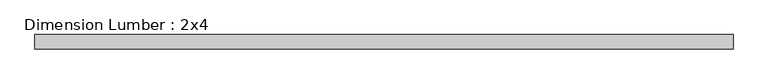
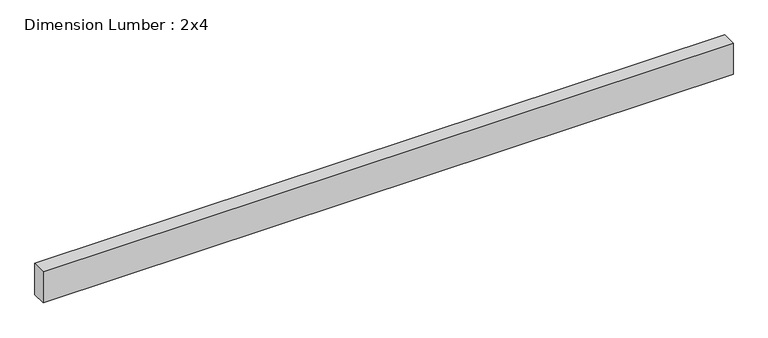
"""IFC4 building model written with IfcOpenShell, lengths in millimetres: beam geometry, Dimension Lumber : 2x4."""

from ifc_helpers import new_model, si_unit, frame, origin, place, context, project, spatial, polyline, outline, extrude, source, transform, mapped, element, save


def dimension_lumber_2x4_857fd039(model_context):
    return source(origin(), model_context, "Body", "SweptSolid", [
        extrude(outline(polyline([(914.6013134, 19.05), (914.6013134, -19.05), (-933.6513134, -19.05), (-933.6513134, 19.05), (914.6013134, 19.05)])), frame((0.0, 0.0, -44.45), z_axis=(0.0, 0.0, 1.0), x_axis=(1.0, 0.0, 0.0)), (0.0, 0.0, 1.0), 88.9),
    ])


if __name__ == "__main__":
    model = new_model("IFC4")
    model_context = context("Model", 3, world=origin())
    ifc_project = project(units=[si_unit("LENGTHUNIT", "METRE", prefix="MILLI")], contexts=[model_context])
    site = spatial("IfcSite", under=ifc_project)
    building = spatial("IfcBuilding", under=site)
    placement = place(None, origin())
    dimension_lumber_2x4_shape = dimension_lumber_2x4_857fd039(model_context)
    element("IfcBeam", 1, ObjectType="Dimension Lumber : 2x4", at=placement, inside=building, context=model_context, shape_type="MappedRepresentation", body=[
        mapped(dimension_lumber_2x4_shape, transform((0.0, 0.0, 0.0), x_axis=(1.0, 0.0, 0.0), y_axis=(0.0, 1.0, 0.0), z_axis=(0.0, 0.0, 1.0))),
    ])
    save(model, "model.ifc")
